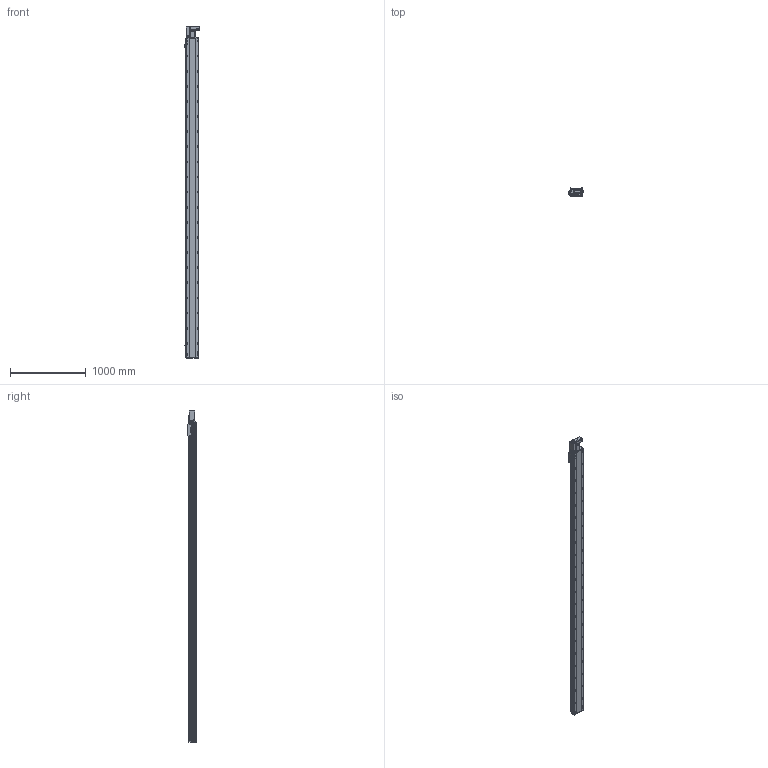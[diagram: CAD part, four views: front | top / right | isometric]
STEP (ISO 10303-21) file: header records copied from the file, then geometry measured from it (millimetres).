
FILE_DESCRIPTION (( 'STEP AP214' ), '1' );
FILE_NAME ('RTB17S-XX-3950-L-M40-C4.STEP', '2025-12-11T06:12:03', ( '' ), ( '' ), 'SwSTEP 2.0', 'SolidWorks 2018', '' );
FILE_SCHEMA (( 'AUTOMOTIVE_DESIGN' ));
Length unit declared in the file: millimetre
Products named in the file (14): RTB14-L-018P^RTB17S-L-々湍釱蚾饜-400W_RTB17S-XX-XX-L-M40-C4; RTH13-BL-012覜茼え俋离^RTB17S-XX-XX-L-M40-C4; RTB17S-L-々湍釱蚾饜-400W^RTB17S-XX-XX-L-M40-C4; RTB17S-L-001耜醱啣^RTB17S-XX-XX-L-M40-C4; RTB14-L-005P--轴承塑胶压盖^RTB17S-L-皮带座装配-400W_RTB17S-XX-XX-L-M40-C4; 400W侜督萇儂^RTB17S-XX-XX-L-M40-C4; RTB17S-XX-3950-L-M40-C4; RTB14-L-008-M20--萇儂啣^RTB17S-L-々湍釱蚾饜-400W_RTB17S-XX-XX-L-M40-C4; RTB14-L-017P^RTB17S-L-々湍釱蚾饜-400W_RTB17S-XX-XX-L-M40-C4; RTB17S-L-004佪裝蹟譫蟀諉釱^RTB17S-XX-XX-L-M40-C4; OMRON EE-SX672 传感器^RTB17S-XX-XX-L-M40-C4; RTB17S-L-007奻裔^RTB17S-XX-XX-L-M40-C4; RTB17-R-011菁釱^RTB17S-XX-XX-L-M40-C4; RMP17S-L-014-T20--々湍釱^RTB17S-L-々湍釱蚾饜-400W_RTB17S-XX-XX-L-M40-C4
Assembly tree (16 placements, depth 3):
  RTB17S-XX-3950-L-M40-C4
    RTB17-R-011菁釱^RTB17S-XX-XX-L-M40-C4
    RTB17S-L-007奻裔^RTB17S-XX-XX-L-M40-C4
    OMRON EE-SX672 传感器^RTB17S-XX-XX-L-M40-C4  x3
    RTB17S-L-001耜醱啣^RTB17S-XX-XX-L-M40-C4
    400W侜督萇儂^RTB17S-XX-XX-L-M40-C4
    RTB17S-L-004佪裝蹟譫蟀諉釱^RTB17S-XX-XX-L-M40-C4
    RTH13-BL-012覜茼え俋离^RTB17S-XX-XX-L-M40-C4
    RTB17S-L-々湍釱蚾饜-400W^RTB17S-XX-XX-L-M40-C4
      RMP17S-L-014-T20--々湍釱^RTB17S-L-々湍釱蚾饜-400W_RTB17S-XX-XX-L-M40-C4
      RTB14-L-005P--轴承塑胶压盖^RTB17S-L-皮带座装配-400W_RTB17S-XX-XX-L-M40-C4
      RTB14-L-008-M20--萇儂啣^RTB17S-L-々湍釱蚾饜-400W_RTB17S-XX-XX-L-M40-C4
      RTB14-L-017P^RTB17S-L-々湍釱蚾饜-400W_RTB17S-XX-XX-L-M40-C4  x2
      RTB14-L-018P^RTB17S-L-々湍釱蚾饜-400W_RTB17S-XX-XX-L-M40-C4
Bounding box: 186 x 108 x 4391 mm (x, y, z)
Volume: 36431333.9 mm3; surface area: 4121474.4 mm2
Topology: 15 solids, 15 shells, 2445 faces, 6897 edges, 4509 vertices
Faces by surface type: plane 1098, cylinder 899, bspline 301, cone 139, torus 8
Entity records: 74153 total; most frequent: CARTESIAN_POINT 21302, ORIENTED_EDGE 10638, DIRECTION 9746, EDGE_CURVE 5319, VERTEX_POINT 3497, AXIS2_PLACEMENT_3D 3427, VECTOR 2892, LINE 2892
